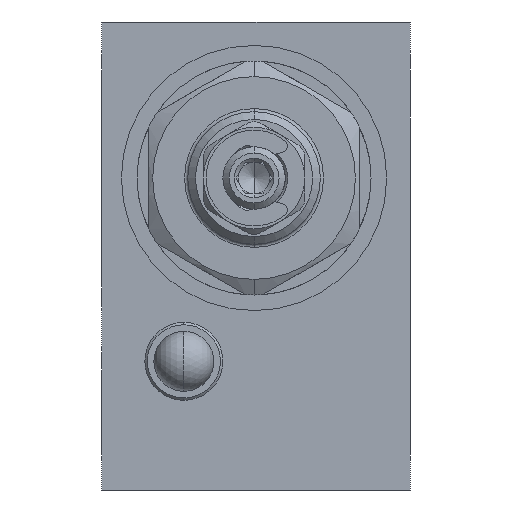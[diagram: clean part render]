
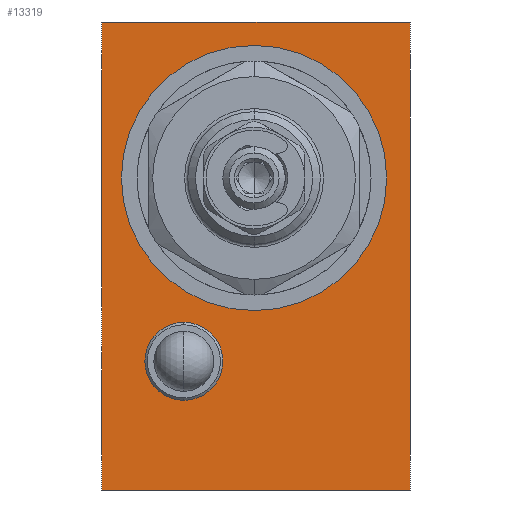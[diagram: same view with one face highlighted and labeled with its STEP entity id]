
A CAD part, left-side view. The second image highlights one B-rep face of the part: STEP entity #13319.
In plain terms, the highlighted planar face has unit normal (-1, 0, 0).
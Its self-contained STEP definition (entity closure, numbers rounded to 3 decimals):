
#269 = PLANE ( 'NONE',  #10781 ) ;
#816 = EDGE_CURVE ( 'NONE', #9664, #14870, #4482, .T. ) ;
#911 = EDGE_LOOP ( 'NONE', ( #10656, #10265 ) ) ;
#1022 = CIRCLE ( 'NONE', #11771, 17. ) ;
#1642 = DIRECTION ( 'NONE',  ( 0., -1., 0. ) ) ;
#1757 = DIRECTION ( 'NONE',  ( -1., 0., 0. ) ) ;
#1998 = CARTESIAN_POINT ( 'NONE',  ( 0., 0., 60. ) ) ;
#2152 = LINE ( 'NONE', #12844, #2747 ) ;
#2261 = VERTEX_POINT ( 'NONE', #11935 ) ;
#2588 = EDGE_LOOP ( 'NONE', ( #14416, #4271, #7673, #7258 ) ) ;
#2747 = VECTOR ( 'NONE', #12435, 1000. ) ;
#2889 = VERTEX_POINT ( 'NONE', #15512 ) ;
#3378 = DIRECTION ( 'NONE',  ( 0., 0., 1. ) ) ;
#3395 = EDGE_CURVE ( 'NONE', #6090, #7576, #4851, .T. ) ;
#3441 = EDGE_CURVE ( 'NONE', #2261, #6077, #4721, .T. ) ;
#3597 = CARTESIAN_POINT ( 'NONE',  ( 0., 20., 40. ) ) ;
#4117 = CARTESIAN_POINT ( 'NONE',  ( 0., 39.5, 0. ) ) ;
#4254 = EDGE_CURVE ( 'NONE', #7576, #6090, #14475, .T. ) ;
#4271 = ORIENTED_EDGE ( 'NONE', *, *, #816, .F. ) ;
#4294 = FACE_OUTER_BOUND ( 'NONE', #2588, .T. ) ;
#4352 = VECTOR ( 'NONE', #7752, 1000. ) ;
#4387 = LINE ( 'NONE', #6009, #4352 ) ;
#4482 = LINE ( 'NONE', #7613, #11950 ) ;
#4528 = FACE_BOUND ( 'NONE', #911, .T. ) ;
#4671 = ORIENTED_EDGE ( 'NONE', *, *, #4254, .F. ) ;
#4721 = CIRCLE ( 'NONE', #9462, 17. ) ;
#4851 = CIRCLE ( 'NONE', #9685, 5. ) ;
#5565 = DIRECTION ( 'NONE',  ( -1., 0., 0. ) ) ;
#5599 = CARTESIAN_POINT ( 'NONE',  ( 0., 29., 16.5 ) ) ;
#6009 = CARTESIAN_POINT ( 'NONE',  ( 0., 0., 0. ) ) ;
#6077 = VERTEX_POINT ( 'NONE', #6927 ) ;
#6090 = VERTEX_POINT ( 'NONE', #8201 ) ;
#6927 = CARTESIAN_POINT ( 'NONE',  ( 0., 20., 57. ) ) ;
#7258 = ORIENTED_EDGE ( 'NONE', *, *, #10673, .T. ) ;
#7533 = DIRECTION ( 'NONE',  ( 0., 0., -1. ) ) ;
#7576 = VERTEX_POINT ( 'NONE', #14335 ) ;
#7613 = CARTESIAN_POINT ( 'NONE',  ( 0., 0., 60. ) ) ;
#7673 = ORIENTED_EDGE ( 'NONE', *, *, #15089, .F. ) ;
#7752 = DIRECTION ( 'NONE',  ( 0., -1., 0. ) ) ;
#8062 = ORIENTED_EDGE ( 'NONE', *, *, #3395, .F. ) ;
#8125 = AXIS2_PLACEMENT_3D ( 'NONE', #5599, #5565, #14943 ) ;
#8140 = DIRECTION ( 'NONE',  ( 0., 0., -1. ) ) ;
#8201 = CARTESIAN_POINT ( 'NONE',  ( 0., 29., 21.5 ) ) ;
#8353 = DIRECTION ( 'NONE',  ( 1., 0., 0. ) ) ;
#8372 = CARTESIAN_POINT ( 'NONE',  ( 0., 0., 0. ) ) ;
#9117 = CARTESIAN_POINT ( 'NONE',  ( 0., 0., 60. ) ) ;
#9462 = AXIS2_PLACEMENT_3D ( 'NONE', #11258, #11245, #11208 ) ;
#9664 = VERTEX_POINT ( 'NONE', #16432 ) ;
#9685 = AXIS2_PLACEMENT_3D ( 'NONE', #12158, #12122, #12034 ) ;
#10265 = ORIENTED_EDGE ( 'NONE', *, *, #3441, .F. ) ;
#10656 = ORIENTED_EDGE ( 'NONE', *, *, #12917, .F. ) ;
#10673 = EDGE_CURVE ( 'NONE', #2889, #11542, #2152, .T. ) ;
#10781 = AXIS2_PLACEMENT_3D ( 'NONE', #9117, #8353, #8140 ) ;
#11208 = DIRECTION ( 'NONE',  ( 0., 0., 1. ) ) ;
#11245 = DIRECTION ( 'NONE',  ( -1., 0., 0. ) ) ;
#11258 = CARTESIAN_POINT ( 'NONE',  ( 0., 20., 40. ) ) ;
#11534 = VECTOR ( 'NONE', #1642, 1000. ) ;
#11542 = VERTEX_POINT ( 'NONE', #4117 ) ;
#11581 = LINE ( 'NONE', #1998, #11534 ) ;
#11771 = AXIS2_PLACEMENT_3D ( 'NONE', #3597, #1757, #3378 ) ;
#11935 = CARTESIAN_POINT ( 'NONE',  ( 0., 20., 23. ) ) ;
#11950 = VECTOR ( 'NONE', #7533, 1000. ) ;
#12034 = DIRECTION ( 'NONE',  ( 0., 0., 1. ) ) ;
#12122 = DIRECTION ( 'NONE',  ( -1., 0., 0. ) ) ;
#12158 = CARTESIAN_POINT ( 'NONE',  ( 0., 29., 16.5 ) ) ;
#12435 = DIRECTION ( 'NONE',  ( 0., 0., -1. ) ) ;
#12844 = CARTESIAN_POINT ( 'NONE',  ( 0., 39.5, 60. ) ) ;
#12917 = EDGE_CURVE ( 'NONE', #6077, #2261, #1022, .T. ) ;
#13319 = ADVANCED_FACE ( 'NONE', ( #14854, #4294, #4528 ), #269, .F. ) ;
#13542 = EDGE_LOOP ( 'NONE', ( #8062, #4671 ) ) ;
#14335 = CARTESIAN_POINT ( 'NONE',  ( 0., 29., 11.5 ) ) ;
#14416 = ORIENTED_EDGE ( 'NONE', *, *, #15612, .T. ) ;
#14475 = CIRCLE ( 'NONE', #8125, 5. ) ;
#14854 = FACE_BOUND ( 'NONE', #13542, .T. ) ;
#14870 = VERTEX_POINT ( 'NONE', #8372 ) ;
#14943 = DIRECTION ( 'NONE',  ( 0., 0., 1. ) ) ;
#15089 = EDGE_CURVE ( 'NONE', #2889, #9664, #11581, .T. ) ;
#15512 = CARTESIAN_POINT ( 'NONE',  ( 0., 39.5, 60. ) ) ;
#15612 = EDGE_CURVE ( 'NONE', #11542, #14870, #4387, .T. ) ;
#16432 = CARTESIAN_POINT ( 'NONE',  ( 0., 0., 60. ) ) ;
